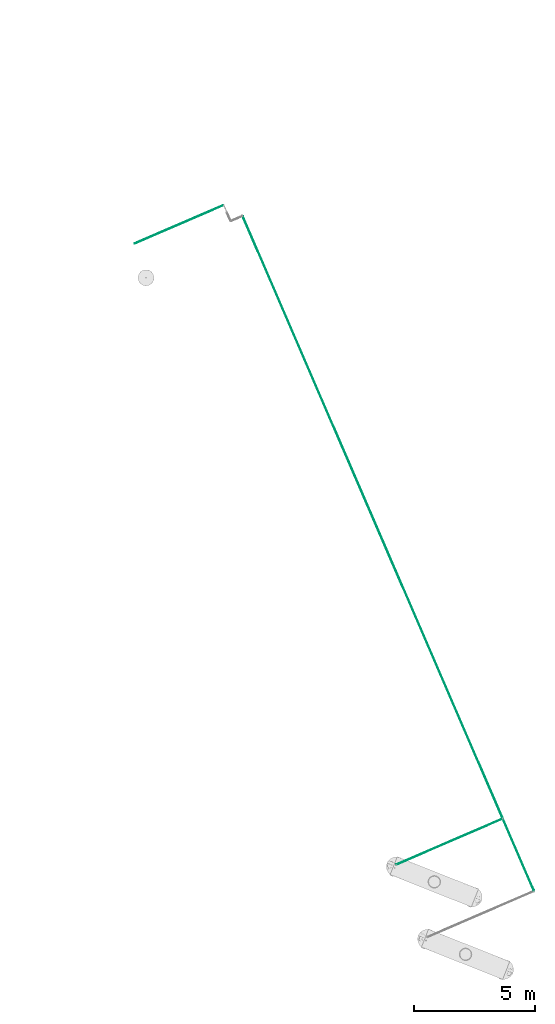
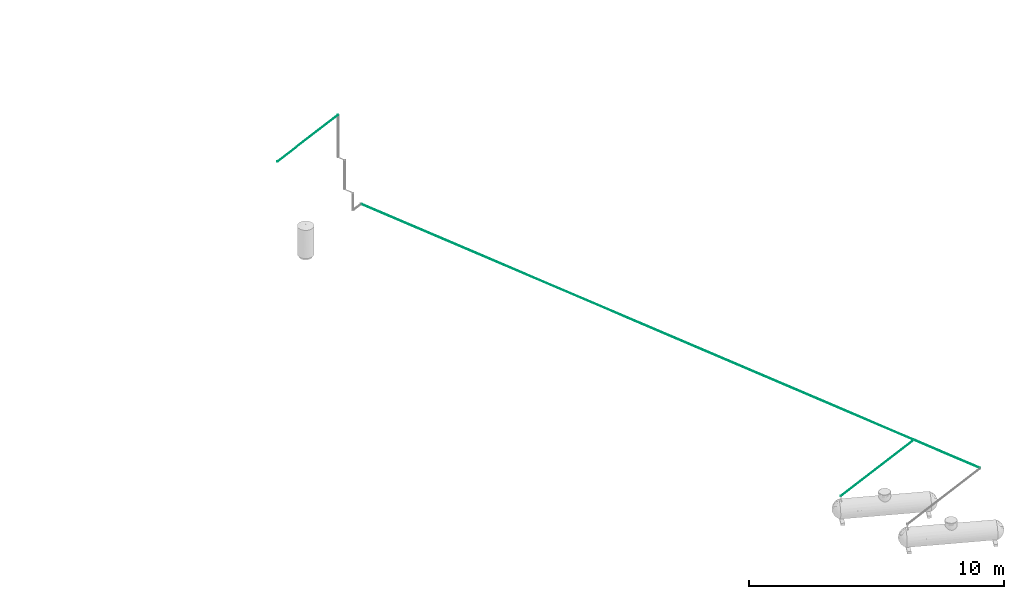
# One storey, part 3 of 26: 4 pipe segments.
"""IFC4 building model written with IfcOpenShell, lengths in metres."""

from ifc_helpers import new_model, entity, si_unit, converted_unit, derived_unit, direction, frame, origin, place, context, subcontext, project, spatial, arc, indexed_curve, outline, extrude, material, type_object, element, save


model = new_model("IFC4")

# Units and contexts
model_context = context("Model", 3, precision=1e-05, world=origin(), true_north=direction((6.12323399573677e-17, 1.0)))
body_context = subcontext(model_context, "Body", "Model", "MODEL_VIEW")
ifc_project = project(units=[si_unit("LENGTHUNIT", "METRE"), si_unit("AREAUNIT", "SQUARE_METRE"), si_unit("VOLUMEUNIT", "CUBIC_METRE"), si_unit("PRESSUREUNIT", "PASCAL"), derived_unit("VOLUMETRICFLOWRATEUNIT", [(si_unit("LENGTHUNIT", "METRE", prefix="DECI"), 3), (si_unit("TIMEUNIT", "SECOND"), -1)]), converted_unit("PLANEANGLEUNIT", "DEGREE", entity("IfcPlaneAngleMeasure", 0.0174532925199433), si_unit("PLANEANGLEUNIT", "RADIAN"), dimensions=[0, 0, 0, 0, 0, 0, 0])], contexts=[model_context])

# Site, building, storey
site_placement = place(None, origin())
site = spatial("IfcSite", under=ifc_project, at=site_placement, Name="Default", CompositionType="ELEMENT")
building_placement = place(site_placement, frame((24.575451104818, -55.896759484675, 317.15), z_axis=(0.0, 0.0, 1.0), x_axis=(-0.396377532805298, 0.918087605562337, 0.0)))
building = spatial("IfcBuilding", under=site, at=building_placement, CompositionType="ELEMENT")
storey_placement = place(building_placement, origin())
storey = spatial("IfcBuildingStorey", under=building, at=storey_placement, Name="Nivel 1", CompositionType="ELEMENT", Elevation=0.0)

# Pipe segments
ifc_material = material(Name="Cobre", Category="Undefined")
pipe_segment_type = type_object("IfcPipeSegmentType", Name="Pipe Types:GAS", PredefinedType="NOTDEFINED")
pipe_segment_1_placement = place(storey_placement, origin())
element("IfcPipeSegment", 1, at=pipe_segment_1_placement, inside=storey, type_object=pipe_segment_type, material=ifc_material, Name="Pipe Types:GAS", ObjectType="Pipe Types:GAS", PredefinedType="NOTDEFINED", context=body_context, shape_type="SweptSolid", body=[
    extrude(outline(indexed_curve([(0.0124999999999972, 0.0), (0.00883883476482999, 0.00883883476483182), (0.0, 0.0125), (-0.00883883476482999, 0.00883883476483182), (-0.0124999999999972, 0.0), (-0.00883883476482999, -0.00883883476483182), (0.0, -0.0125), (0.00883883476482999, -0.00883883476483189)], segments=[arc(1, 2, 3), arc(3, 4, 5), arc(5, 6, 7), arc(7, 8, 1)], self_intersect=False)), frame((-33.3163813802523, 50.473264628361, -0.440000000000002), z_axis=(1.0, 0.0, 0.0), x_axis=(0.0, -1.0, 0.0)), (0.0, 0.0, 1.0), 27.0013350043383),
])
pipe_segment_2_placement = place(storey_placement, origin())
element("IfcPipeSegment", 2, at=pipe_segment_2_placement, inside=storey, type_object=pipe_segment_type, material=ifc_material, Name="Pipe Types:GAS", ObjectType="Pipe Types:GAS", PredefinedType="NOTDEFINED", context=body_context, shape_type="SweptSolid", body=[
    extrude(outline(indexed_curve([(0.0125000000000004, -5.88870225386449e-32), (0.00883883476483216, 0.00883883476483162), (5.88870225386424e-32, 0.0124999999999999), (-0.00883883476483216, 0.00883883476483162), (-0.0125000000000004, 5.88870225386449e-32), (-0.00883883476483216, -0.00883883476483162), (-5.88870225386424e-32, -0.0124999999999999), (0.00883883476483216, -0.00883883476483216)], segments=[arc(1, 2, 3), arc(3, 4, 5), arc(5, 6, 7), arc(7, 8, 1)], self_intersect=False)), frame((-5.5744088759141, 51.0310823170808, 3.8420672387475), z_axis=(0.0, 1.0, 0.0), x_axis=(1.0, 0.0, 0.0)), (0.0, 0.0, 1.0), 3.98218231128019),
])
pipe_segment_3_placement = place(storey_placement, origin())
element("IfcPipeSegment", 3, at=pipe_segment_3_placement, inside=storey, type_object=pipe_segment_type, material=ifc_material, Name="Pipe Types:GAS", ObjectType="Pipe Types:GAS", PredefinedType="NOTDEFINED", context=body_context, shape_type="SweptSolid", body=[
    extrude(outline(indexed_curve([(0.0125000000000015, 0.0), (0.00883883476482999, 0.00883883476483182), (0.0, 0.0125), (-0.00883883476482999, 0.00883883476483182), (-0.0125000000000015, 0.0), (-0.00883883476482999, -0.00883883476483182), (0.0, -0.0125), (0.00883883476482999, -0.00883883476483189)], segments=[arc(1, 2, 3), arc(3, 4, 5), arc(5, 6, 7), arc(7, 8, 1)], self_intersect=False)), frame((-33.3433688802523, 50.500252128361, -0.440000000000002), z_axis=(0.0, 1.0, 0.0), x_axis=(1.0, 0.0, 0.0)), (0.0, 0.0, 1.0), 4.75237500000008),
])
pipe_segment_4_placement = place(storey_placement, origin())
element("IfcPipeSegment", 4, at=pipe_segment_4_placement, inside=storey, type_object=pipe_segment_type, material=ifc_material, Name="Pipe Types:GAS", ObjectType="Pipe Types:GAS", PredefinedType="NOTDEFINED", context=body_context, shape_type="SweptSolid", body=[
    extrude(outline(indexed_curve([(0.0124999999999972, 0.0), (0.00883883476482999, 0.00883883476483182), (0.0, 0.0125), (-0.00883883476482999, 0.00883883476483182), (-0.0124999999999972, 0.0), (-0.00883883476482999, -0.00883883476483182), (0.0, -0.0125), (0.00883883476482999, -0.00883883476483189)], segments=[arc(1, 2, 3), arc(3, 4, 5), arc(5, 6, 7), arc(7, 8, 1)], self_intersect=False)), frame((-36.5737713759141, 50.473264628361, -0.44), z_axis=(1.0, 0.0, 0.0), x_axis=(0.0, -1.0, 0.0)), (0.0, 0.0, 1.0), 3.20341499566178),
])

save(model, "model.ifc")
